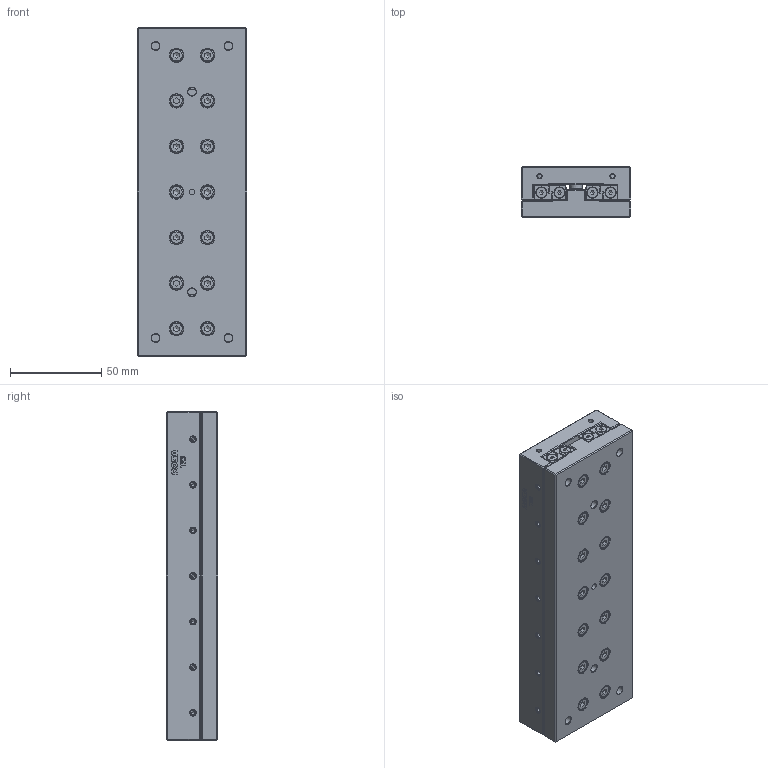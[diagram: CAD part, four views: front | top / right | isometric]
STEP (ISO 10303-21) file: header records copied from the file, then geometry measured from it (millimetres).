
FILE_DESCRIPTION(/* description */ ('Tavola TR3 L= 180 mm'),/* implementation_level */ '2;1');
FILE_NAME(/* name */ 'TR030180-00.stp',/* time_stamp */ '2024-02-07T10:28:33+01:00',/* author */ ('Rosa sistemi'),/* organization */ (''),/* preprocessor_version */ 'ST-DEVELOPER v20',/* originating_system */ 'Autodesk Inventor 2024',/* authorisation */ '');
FILE_SCHEMA (('AUTOMOTIVE_DESIGN { 1 0 10303 214 3 1 1 }'));
Products named in the file (2): TR030180-00; TR030180-00_1
Assembly tree (1 placements, depth 2):
  TR030180-00
    TR030180-00_1
Bounding box: 60 x 28 x 180 mm (x, y, z)
Volume: 276381.6 mm3; surface area: 86272.6 mm2
Topology: 14 solids, 14 shells, 1859 faces, 4713 edges, 3092 vertices
Faces by surface type: plane 1104, cylinder 281, cone 216, bspline 196, torus 62
Full cylindrical faces by diameter (mm): 0.929 x4, 1.161 x1, 2.459 x4, 2.554 x4, 3 x8, 3.1 x4, 3.192 x1, 3.242 x46, 4 x28, 4.5 x34, 5.7 x8, 6 x28, 7 x28, 7.5 x34
Entity records: 58420 total; most frequent: CARTESIAN_POINT 12977, ORIENTED_EDGE 9332, DIRECTION 8390, EDGE_CURVE 4666, VERTEX_POINT 3092, AXIS2_PLACEMENT_3D 2811, LINE 2768, VECTOR 2768
